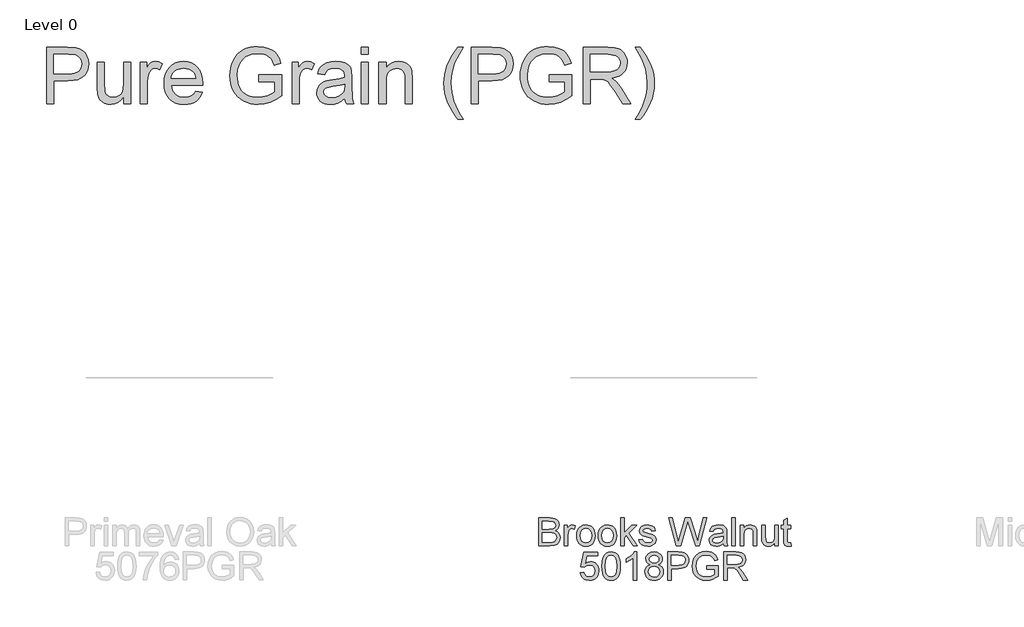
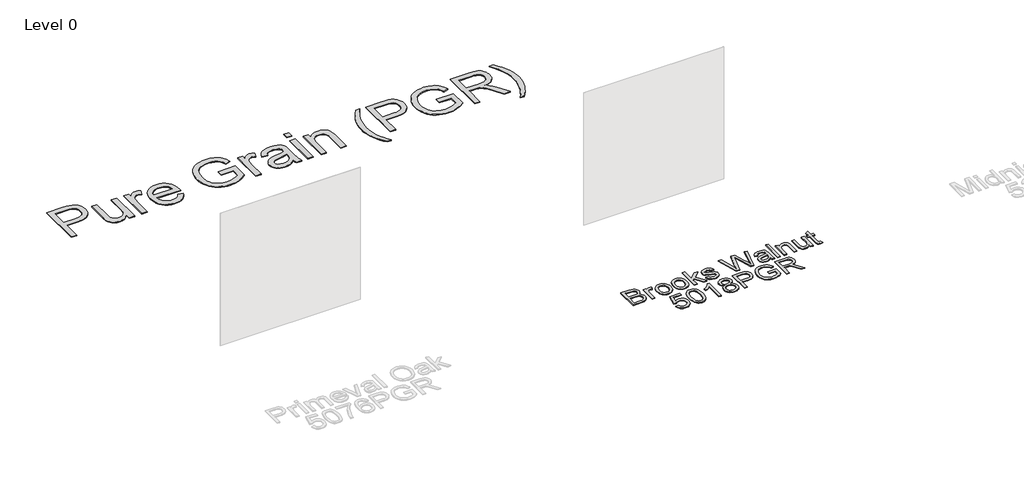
# One storey, part 19 of 43: 2 proxies.
"""IFC4 building model written with IfcOpenShell, lengths in millimetres."""

from ifc_helpers import new_model, si_unit, origin, origin_with_axes, place, context, project, spatial, polyline, outline, extrude, element, save

model = new_model("IFC4")

# Units and contexts
model_context = context("Model", 3, world=origin())
ifc_project = project(units=[si_unit("LENGTHUNIT", "METRE", prefix="MILLI")], contexts=[model_context])

# Site, building, storey
site = spatial("IfcSite", under=ifc_project)
building = spatial("IfcBuilding", under=site)
storey = spatial("IfcBuildingStorey", under=building, Name="Level 0", Elevation=0.0)

# Proxies
placement = place(None, origin())
element("IfcBuildingElementProxy", 1, Name="300mm Arial", ObjectType="300mm Arial", at=placement, inside=storey, context=model_context, shape_type="SweptSolid", body=[
    extrude(outline(polyline([(21409.6628701, -37006.860494), (21409.6628701, -36705.4915635), (21524.6627817, -36705.4915635), (21556.2914363, -36707.7080526), (21580.9855152, -36714.3575196), (21599.9130439, -36725.6055116), (21614.2420476, -36741.6175755), (21623.2643535, -36760.4531336), (21626.2717888, -36780.1716086), (21623.7426001, -36798.317388), (21616.1550339, -36815.3779155), (21603.4539081, -36830.3047274), (21585.5840402, -36842.0493601), (21606.9303929, -36853.1961846), (21622.7033335, -36870.1555446), (21632.4430093, -36891.8054), (21635.6895679, -36917.0237108), (21633.4730789, -36938.0389697), (21626.8236118, -36957.5275184), (21616.899995, -36974.1006023), (21604.8610567, -36986.3694669), (21590.1181857, -36995.253817), (21572.0827709, -37001.6733578), (21523.779865, -37006.860494), (21409.6628701, -37006.860494)]), holes=[polyline([(21447.3339864, -36827.9226915), (21516.1279195, -36827.9226915), (21556.3006333, -36824.68533), (21570.3629226, -36819.1027207), (21580.4704804, -36810.7426024), (21586.5681245, -36799.7337336), (21588.6006725, -36786.2048733), (21586.7060802, -36773.071486), (21581.0223034, -36761.630356), (21571.8068594, -36752.7000206), (21559.3172657, -36747.0990172), (21510.9039951, -36743.1626798), (21447.3339864, -36743.1626798), (21447.3339864, -36827.9226915)]), polyline([(21447.3339864, -36969.1893777), (21524.5892053, -36969.1893777), (21552.548237, -36967.7178497), (21576.2030493, -36959.5140812), (21591.8748223, -36942.7754504), (21596.4825443, -36930.9480443), (21598.0184516, -36917.3915928), (21596.2158298, -36901.6462434), (21590.8079645, -36888.1081859), (21581.3625943, -36877.5223815), (21567.4474578, -36870.6337912), (21547.7381799, -36866.8538037), (21520.9103854, -36865.5938078), (21447.3339864, -36865.5938078), (21447.3339864, -36969.1893777)])]), origin_with_axes(), (0.0, 0.0, 1.0), 10.0),
    extrude(outline(polyline([(21682.7784633, -37006.860494), (21682.7784633, -36785.5426857), (21715.74069, -36785.5426857), (21715.74069, -36818.2841833), (21727.9175841, -36799.3014723), (21739.1379849, -36788.1178596), (21750.395174, -36782.654812), (21762.6824326, -36780.8337961), (21781.4444144, -36783.7400639), (21800.5007017, -36792.4588672), (21787.9191375, -36826.2304343), (21774.6753857, -36820.4362929), (21761.4316338, -36818.5049125), (21750.1836418, -36820.3627165), (21740.1312663, -36825.9361288), (21732.0102713, -36834.8020848), (21726.5564207, -36846.5375205), (21721.9762899, -36867.5803706), (21720.4495796, -36890.5362071), (21720.4495796, -37006.860494), (21682.7784633, -37006.860494)])), origin_with_axes(), (0.0, 0.0, 1.0), 10.0),
    extrude(outline(polyline([(21814.6273703, -36896.2015898), (21816.6645169, -36867.5389839), (21822.7759565, -36842.8403064), (21832.9616893, -36822.1055575), (21847.2217151, -36805.334737), (21861.57831, -36794.6155754), (21877.4248269, -36786.9590314), (21894.7612659, -36782.3651049), (21913.587627, -36780.8337961), (21934.3706605, -36782.698498), (21953.1625327, -36788.2926036), (21969.9632435, -36797.6161129), (21984.7727931, -36810.669026), (21996.8600159, -36827.0098843), (22005.4937465, -36846.1972296), (22010.6739848, -36868.2310619), (22012.400731, -36893.1113811), (22009.3473104, -36931.1687735), (22000.1870487, -36960.1394806), (21985.1866604, -36981.8353213), (21964.6128598, -36998.0681143), (21940.1762983, -37008.1940662), (21913.587627, -37011.5693835), (21892.5010909, -37009.7115794), (21873.5344748, -37004.1381672), (21856.6877787, -36994.8491468), (21841.9610026, -36981.8445183), (21830.0025385, -36965.3450108), (21821.4607784, -36945.5713536), (21816.3357224, -36922.5235466), (21814.6273703, -36896.2015898)]), holes=[polyline([(21852.2984867, -36896.1280134), (21856.6578883, -36930.2214773), (21869.7360932, -36954.5108861), (21889.41778, -36969.0514219), (21913.587627, -36973.8982672), (21937.6471095, -36969.0238308), (21957.2920081, -36954.4005215), (21970.370213, -36929.789216), (21974.7296146, -36894.950791), (21970.3426219, -36861.8506085), (21957.1816435, -36837.8922936), (21937.5091538, -36823.3517577), (21913.587627, -36818.5049125), (21889.41778, -36823.3333636), (21869.7360932, -36837.8187172), (21856.6578883, -36862.0529436), (21852.2984867, -36896.1280134)])]), origin_with_axes(), (0.0, 0.0, 1.0), 10.0),
    extrude(outline(polyline([(22045.3629577, -36896.2015898), (22047.4001043, -36867.5389839), (22053.5115439, -36842.8403064), (22063.6972767, -36822.1055575), (22077.9573025, -36805.334737), (22092.3138974, -36794.6155754), (22108.1604143, -36786.9590314), (22125.4968533, -36782.3651049), (22144.3232144, -36780.8337961), (22165.1062479, -36782.698498), (22183.8981201, -36788.2926036), (22200.6988309, -36797.6161129), (22215.5083805, -36810.669026), (22227.5956033, -36827.0098843), (22236.2293339, -36846.1972296), (22241.4095722, -36868.2310619), (22243.1363183, -36893.1113811), (22240.0828978, -36931.1687735), (22230.9226361, -36960.1394806), (22215.9222477, -36981.8353213), (22195.3484472, -36998.0681143), (22170.9118856, -37008.1940662), (22144.3232144, -37011.5693835), (22123.2366783, -37009.7115794), (22104.2700622, -37004.1381672), (22087.4233661, -36994.8491468), (22072.69659, -36981.8445183), (22060.7381259, -36965.3450108), (22052.1963658, -36945.5713536), (22047.0713097, -36922.5235466), (22045.3629577, -36896.2015898)]), holes=[polyline([(22083.034074, -36896.1280134), (22087.3934757, -36930.2214773), (22100.4716806, -36954.5108861), (22120.1533673, -36969.0514219), (22144.3232144, -36973.8982672), (22168.3826969, -36969.0238308), (22188.0275955, -36954.4005215), (22201.1058004, -36929.789216), (22205.465202, -36894.950791), (22201.0782092, -36861.8506085), (22187.9172309, -36837.8922936), (22168.2447412, -36823.3517577), (22144.3232144, -36818.5049125), (22120.1533673, -36823.3333636), (22100.4716806, -36837.8187172), (22087.3934757, -36862.0529436), (22083.034074, -36896.1280134)])]), origin_with_axes(), (0.0, 0.0, 1.0), 10.0),
    extrude(outline(polyline([(22285.5163242, -37006.860494), (22285.5163242, -36705.4915635), (22323.1874405, -36705.4915635), (22323.1874405, -36867.4332178), (22407.6531466, -36785.5426857), (22459.7452371, -36785.5426857), (22374.2494614, -36868.4632874), (22464.4541266, -37006.860494), (22420.45544, -37006.860494), (22347.246923, -36894.6564855), (22323.1874405, -36917.9802039), (22323.1874405, -37006.860494), (22285.5163242, -37006.860494)])), origin_with_axes(), (0.0, 0.0, 1.0), 10.0),
    extrude(outline(polyline([(22483.2896848, -36940.9360404), (22520.9608011, -36936.2271509), (22526.9020953, -36952.3403823), (22538.3984077, -36964.1861825), (22555.5233145, -36971.470246), (22578.3503923, -36973.8982672), (22600.9015586, -36971.6725811), (22616.7572726, -36964.9955229), (22626.1382635, -36955.3202265), (22629.2652605, -36944.0998256), (22626.1198694, -36934.4981055), (22616.6836962, -36927.1772538), (22577.9089339, -36916.4350996), (22521.1815303, -36898.0042116), (22506.8249354, -36888.7427824), (22496.423072, -36876.4831149), (22490.1046987, -36862.0069584), (22487.9985743, -36846.0960621), (22489.6908315, -36831.5003439), (22494.767603, -36818.0266659), (22502.7690364, -36806.2084568), (22513.2352792, -36796.5791455), (22537.1843971, -36785.4323211), (22569.5948008, -36780.8337961), (22594.1141358, -36782.6824032), (22615.4328974, -36788.2282242), (22632.5761984, -36796.9286334), (22644.5691515, -36808.2410048), (22652.5154026, -36823.0022698), (22657.5185977, -36842.0493601), (22619.8474814, -36846.7582497), (22615.0926066, -36834.9032524), (22605.6840246, -36825.972917), (22591.5297648, -36820.3719136), (22572.5378568, -36818.5049125), (22550.9063955, -36820.2891401), (22536.4854213, -36825.6418232), (22528.3736233, -36833.3673451), (22525.6696906, -36842.2700893), (22530.157851, -36853.2329728), (22544.2109432, -36861.5471059), (22576.6581352, -36869.5669334), (22631.950799, -36887.2988455), (22646.5557142, -36895.7785255), (22657.6289623, -36907.3852025), (22664.6095232, -36922.1556646), (22666.9363768, -36940.1267001), (22664.204853, -36958.7047408), (22656.0102815, -36976.1791356), (22642.6653621, -36991.1795239), (22624.4827945, -37002.3355454), (22602.5202394, -37009.260924), (22577.8353575, -37011.5693835), (22539.8515415, -37007.1180114), (22512.1316332, -36993.763895), (22493.6271688, -36971.654187), (22483.2896848, -36940.9360404)])), origin_with_axes(), (0.0, 0.0, 1.0), 10.0),
    extrude(outline(polyline([(22885.6790111, -37006.860494), (22803.4941734, -36705.4915635), (22842.3425121, -36705.4915635), (22890.0200186, -36903.5592297), (22904.7352985, -36964.7012173), (22920.4806478, -36910.622564), (22980.2246839, -36705.4915635), (23036.2163235, -36705.4915635), (23079.626399, -36854.189466), (23098.2228338, -36909.3717653), (23111.9264381, -36964.7012173), (23126.2002596, -36905.3250633), (23174.3192245, -36705.4915635), (23213.1675632, -36705.4915635), (23130.9091491, -37006.860494), (23090.6628588, -37006.860494), (23018.410835, -36774.359073), (23008.3308683, -36741.9118811), (22997.0001028, -36780.9809489), (22931.1492257, -37006.860494), (22885.6790111, -37006.860494)])), origin_with_axes(), (0.0, 0.0, 1.0), 10.0),
    extrude(outline(polyline([(23387.3964761, -36978.6071568), (23369.3978495, -36994.0398064), (23350.865794, -37004.1381672), (23331.3772453, -37009.7115794), (23310.5091391, -37011.5693835), (23279.0276374, -37007.0996173), (23255.8050865, -36993.6903186), (23241.4852798, -36973.3280501), (23236.7120109, -36947.9993748), (23238.5146327, -36932.3827841), (23243.922498, -36918.2009331), (23252.2642222, -36906.0608273), (23262.8684208, -36896.5694718), (23289.2455598, -36884.2086368), (23321.8399046, -36878.5432541), (23360.3571495, -36872.5835657), (23387.1757469, -36865.5938078), (23387.3964761, -36857.2060983), (23384.8029081, -36840.3938912), (23377.0222039, -36829.3942195), (23359.6213855, -36821.2272392), (23335.377962, -36818.5049125), (23312.9371603, -36820.3167313), (23297.2653873, -36825.7521878), (23286.5784153, -36835.8045633), (23279.0920167, -36851.4671392), (23241.4209004, -36846.7582497), (23247.9600029, -36826.156858), (23257.7180728, -36809.9700502), (23271.6056181, -36797.590821), (23290.5331468, -36788.4121652), (23313.6821213, -36782.7283884), (23340.2340043, -36780.8337961), (23365.7006355, -36782.5076592), (23385.8881599, -36787.5292485), (23401.1092775, -36795.0800264), (23411.6766878, -36804.3414556), (23418.6848398, -36815.7917827), (23423.2281825, -36829.9092543), (23425.0675924, -36862.8714811), (23425.0675924, -36909.7396473), (23426.9805788, -36975.1858542), (23434.4853715, -37006.860494), (23396.8142552, -37006.860494), (23387.3964761, -36978.6071568)]), holes=[polyline([(23387.3964761, -36903.2649241), (23326.6223705, -36914.8164188), (23294.2119667, -36920.9232599), (23279.5334751, -36930.8560738), (23274.3831272, -36945.3506244), (23277.1882274, -36956.5526311), (23285.6035281, -36965.7312869), (23299.4450881, -36971.8565221), (23318.5289666, -36973.8982672), (23338.7624764, -36971.64499), (23356.6415413, -36964.8851583), (23371.1360919, -36954.9247533), (23381.2160586, -36943.069756), (23385.6858248, -36930.8560738), (23387.1757469, -36913.933502), (23387.3964761, -36903.2649241)])]), origin_with_axes(), (0.0, 0.0, 1.0), 10.0),
    extrude(outline(polyline([(23476.8653774, -37006.860494), (23476.8653774, -36705.4915635), (23514.5364937, -36705.4915635), (23514.5364937, -37006.860494), (23476.8653774, -37006.860494)])), origin_with_axes(), (0.0, 0.0, 1.0), 10.0),
    extrude(outline(polyline([(23571.0431681, -37006.860494), (23571.0431681, -36785.5426857), (23608.7142844, -36785.5426857), (23608.7142844, -36816.4447733), (23621.8016864, -36800.8649708), (23637.5194446, -36789.7365404), (23655.8675592, -36783.0594822), (23676.8460299, -36780.8337961), (23695.4148736, -36782.6272209), (23712.4202189, -36788.0074951), (23726.6020698, -36796.303234), (23736.7004305, -36806.8430532), (23747.9944078, -36834.5445674), (23749.9809706, -36870.964885), (23749.9809706, -37006.860494), (23712.3098543, -37006.860494), (23712.3098543, -36876.0416565), (23707.9688467, -36842.7115477), (23701.9631732, -36832.7879309), (23692.6281675, -36825.0900002), (23680.6628056, -36820.1511844), (23666.7660633, -36818.5049125), (23644.7023406, -36822.2021265), (23625.8943736, -36833.2937687), (23618.3780846, -36842.3482643), (23613.0093067, -36854.7228949), (23608.7142844, -36889.4325611), (23608.7142844, -37006.860494), (23571.0431681, -37006.860494)])), origin_with_axes(), (0.0, 0.0, 1.0), 10.0),
    extrude(outline(polyline([(23943.0454416, -37006.860494), (23943.0454416, -36968.8214957), (23929.4154137, -36987.5236966), (23913.5413056, -37000.8824116), (23895.4231174, -37008.8976405), (23875.0608489, -37011.5693835), (23856.7127344, -37009.6931853), (23839.6338128, -37004.0645908), (23825.3048091, -36995.6033049), (23815.2064483, -36985.2290327), (23803.9860475, -36957.4907302), (23801.7787555, -36922.4683643), (23801.7787555, -36785.5426857), (23839.4498718, -36785.5426857), (23839.4498718, -36904.7364521), (23841.7307402, -36943.1433324), (23847.2213789, -36955.9548229), (23856.629961, -36965.6944987), (23869.3310869, -36971.8473251), (23884.6993572, -36973.8982672), (23900.9505443, -36971.8013398), (23916.1532678, -36965.5105577), (23928.6888468, -36955.605335), (23936.9386005, -36942.6650858), (23941.5187314, -36924.9423707), (23943.0454416, -36900.6897502), (23943.0454416, -36785.5426857), (23980.7165579, -36785.5426857), (23980.7165579, -37006.860494), (23943.0454416, -37006.860494)])), origin_with_axes(), (0.0, 0.0, 1.0), 10.0),
    extrude(outline(polyline([(24112.565465, -36975.4433716), (24117.2743546, -37007.96414), (24089.0945937, -37011.5693835), (24071.0131937, -37010.005885), (24057.5303185, -37005.3153896), (24048.0021749, -36998.0865084), (24041.7849691, -36988.9078526), (24038.3636666, -36973.1441091), (24037.2232324, -36946.1599648), (24037.2232324, -36823.213802), (24008.9698952, -36823.213802), (24008.9698952, -36785.5426857), (24037.2232324, -36785.5426857), (24037.2232324, -36731.758338), (24074.8943487, -36709.6118419), (24074.8943487, -36785.5426857), (24112.565465, -36785.5426857), (24112.565465, -36823.213802), (24074.8943487, -36823.213802), (24074.8943487, -36945.0563188), (24076.8809115, -36964.4804881), (24083.3188464, -36971.3598814), (24096.157928, -36973.8982672), (24112.565465, -36975.4433716)])), origin_with_axes(), (0.0, 0.0, 1.0), 10.0),
    extrude(outline(polyline([(21854.6529314, -37292.7338254), (21892.3240477, -37288.0249358), (21899.2402292, -37310.6404815), (21911.3067587, -37326.8364863), (21928.4684538, -37336.5761621), (21950.6701322, -37339.8227207), (21977.6726706, -37335.3069693), (21997.9061803, -37321.7597148), (22010.5429269, -37300.7444558), (22014.7551757, -37273.8246908), (22010.8096413, -37248.4776213), (21998.9730381, -37229.0902402), (21979.1533956, -37216.7845875), (21951.2587434, -37212.6827032), (21932.9842052, -37214.3197781), (21918.186152, -37219.2310027), (21897.0329373, -37236.2271509), (21859.361821, -37231.5182614), (21892.3240477, -37076.1249066), (22038.2996234, -37076.1249066), (22038.2996234, -37113.7960229), (21922.7846769, -37113.7960229), (21906.6714455, -37196.790201), (21933.5820135, -37180.4562404), (21961.7801684, -37175.0115869), (21980.1259837, -37176.6992456), (21996.9772783, -37181.7622215), (22012.3340523, -37190.2005148), (22026.1963058, -37202.0141254), (22037.6719248, -37216.4810848), (22045.8687955, -37232.8794248), (22050.7869179, -37251.2091452), (22052.426292, -37271.470246), (22046.521786, -37309.1413624), (22039.1411535, -37325.9351754), (22028.8082679, -37341.3678251), (22013.154889, -37357.1729553), (21994.889548, -37368.4623341), (21974.0122448, -37375.2359613), (21950.5229794, -37377.4938371), (21913.5232477, -37371.6904986), (21897.8445769, -37364.4363255), (21884.0467028, -37354.2804832), (21872.5664853, -37341.7288093), (21863.8407843, -37327.2871418), (21854.6529314, -37292.7338254)])), origin_with_axes(), (0.0, 0.0, 1.0), 10.0),
    extrude(outline(polyline([(22085.3885188, -37224.5285035), (22088.1568308, -37176.2899768), (22096.4617669, -37137.8187172), (22110.2205535, -37108.5261133), (22129.3504172, -37087.8235541), (22153.9893138, -37075.5179013), (22184.2751991, -37071.4160171), (22207.488553, -37073.8440382), (22228.2738857, -37081.1281017), (22245.65631, -37092.983099), (22258.6609385, -37109.1239216), (22268.4833878, -37129.4126136), (22276.3192743, -37153.7112194), (22281.4512281, -37184.5673217), (22283.1618794, -37224.5285035), (22280.4211585, -37272.4911186), (22272.1989959, -37310.8704077), (22258.5229828, -37340.1906027), (22239.4207102, -37360.9759355), (22214.7266313, -37373.3643617), (22184.2751991, -37377.4938371), (22163.5266546, -37375.7004123), (22145.1325548, -37370.3201381), (22129.0928998, -37361.3530145), (22115.4076896, -37348.7990414), (22102.2743024, -37326.1053209), (22092.8933115, -37297.828991), (22087.264717, -37263.9700519), (22085.3885188, -37224.5285035)]), holes=[polyline([(22123.0596351, -37224.4549271), (22127.474219, -37283.7115194), (22132.992449, -37303.9795181), (22140.7179709, -37318.0073184), (22160.4364458, -37334.3688702), (22184.2751991, -37339.8227207), (22208.1139524, -37334.3504761), (22227.8324273, -37317.933742), (22235.5579492, -37303.8829491), (22241.0761792, -37283.6195489), (22245.4907631, -37224.4549271), (22241.223332, -37166.5319069), (22235.889043, -37146.3305869), (22228.4210385, -37131.9693935), (22208.7393518, -37114.8076984), (22183.8337407, -37109.0871334), (22160.2525048, -37114.1271167), (22141.3065821, -37129.2470667), (22133.3235428, -37144.8820515), (22127.6213718, -37165.9616898), (22123.0596351, -37224.4549271)])]), origin_with_axes(), (0.0, 0.0, 1.0), 10.0),
    extrude(outline(polyline([(22457.3907923, -37372.7849475), (22419.719676, -37372.7849475), (22419.719676, -37137.9290818), (22384.0351225, -37163.3497277), (22344.3774434, -37182.3692268), (22344.3774434, -37146.7582497), (22373.9643529, -37130.6634124), (22399.5965309, -37111.5151545), (22419.8024495, -37091.1528861), (22433.1105806, -37071.4160171), (22457.3907923, -37071.4160171), (22457.3907923, -37372.7849475)])), origin_with_axes(), (0.0, 0.0, 1.0), 10.0),
    extrude(outline(polyline([(22601.7476872, -37206.7965913), (22581.5785568, -37196.8637774), (22567.4242971, -37183.3992964), (22559.0641787, -37166.6790597), (22556.2774726, -37146.9789789), (22557.7949859, -37131.6153071), (22562.3475255, -37117.5300252), (22569.9350917, -37104.7231332), (22580.5576843, -37093.1946312), (22593.7048671, -37083.6664875), (22608.8662038, -37076.8606706), (22645.2313391, -37071.4160171), (22681.8172035, -37076.9894293), (22697.1440871, -37083.9561946), (22710.493605, -37093.709666), (22721.3093357, -37105.4634957), (22729.0348576, -37118.4313361), (22733.6701707, -37132.613187), (22735.2152751, -37148.0090485), (22732.4653572, -37167.0745329), (22724.2156034, -37183.509661), (22710.3740434, -37196.8913686), (22690.8487065, -37206.7965913), (22714.0344692, -37218.7435591), (22730.9110557, -37236.3375155), (22741.2025545, -37258.732332), (22744.6330542, -37285.0818799), (22742.9315999, -37303.8714528), (22737.8272372, -37321.0975272), (22729.3199661, -37336.7601031), (22717.4097865, -37350.8591806), (22702.7220979, -37362.5118428), (22685.8822995, -37370.8351729), (22666.8903915, -37375.829171), (22645.7463739, -37377.4938371), (22624.6023562, -37375.8222732), (22605.6104482, -37370.8075818), (22588.7706498, -37362.4497627), (22574.0829612, -37350.748816), (22562.1727816, -37336.5508703), (22553.6655105, -37320.7020541), (22548.5611478, -37303.2023674), (22546.8596935, -37284.0518103), (22550.4281489, -37256.6813898), (22561.133515, -37234.1670117), (22578.4239687, -37217.2812282), (22601.7476872, -37206.7965913)]), holes=[polyline([(22593.9485889, -37148.0826249), (22597.287118, -37164.52695), (22607.3027054, -37177.6603373), (22623.7010453, -37186.268776), (22646.1878322, -37189.1382555), (22668.1503874, -37186.2871701), (22684.3004069, -37177.7339137), (22694.2332208, -37165.0419848), (22697.5441588, -37149.774882), (22694.1228562, -37133.9283651), (22683.8589486, -37120.822569), (22667.4881998, -37112.0209923), (22645.7463739, -37109.0871334), (22623.8665922, -37111.9566129), (22607.5234346, -37120.5650516), (22597.3423003, -37133.1834041), (22593.9485889, -37148.0826249)]), polyline([(22584.5308099, -37282.7274351), (22590.821592, -37311.0911369), (22599.5311982, -37323.2588339), (22613.0784527, -37332.317928), (22629.3020487, -37337.9465226), (22646.0406794, -37339.8227207), (22671.6820545, -37335.8771864), (22690.9222829, -37324.0405832), (22702.9520241, -37306.1155329), (22706.9619378, -37283.9046575), (22702.8232654, -37261.316703), (22690.4072481, -37242.9961796), (22670.7255613, -37230.8560738), (22644.7898807, -37226.8093718), (22619.5071905, -37230.8008915), (22600.4601002, -37242.7754504), (22588.5131325, -37260.7464859), (22584.5308099, -37282.7274351)])]), origin_with_axes(), (0.0, 0.0, 1.0), 10.0),
    extrude(outline(polyline([(22791.7219495, -37372.7849475), (22791.7219495, -37071.4160171), (22903.4109233, -37071.4160171), (22948.4396795, -37074.2854966), (22968.5168394, -37079.6473767), (22985.043938, -37088.375377), (22998.3520692, -37100.8649708), (23008.7723267, -37117.5116311), (23015.5045672, -37137.1473326), (23017.7486474, -37158.6040499), (23016.2334334, -37177.1039158), (23011.6877915, -37194.1230566), (23004.1117217, -37209.6614723), (22993.5052239, -37223.7191631), (22978.9439947, -37235.3718253), (22959.5037305, -37243.6951554), (22935.1844313, -37248.6891535), (22905.9860972, -37250.3538195), (22829.3930658, -37250.3538195), (22829.3930658, -37372.7849475), (22791.7219495, -37372.7849475)]), holes=[polyline([(22829.3930658, -37212.6827032), (22908.1933892, -37212.6827032), (22941.5970744, -37209.2246125), (22963.6699941, -37198.8503402), (22975.9756468, -37182.2036799), (22980.0775311, -37159.9284251), (22977.6587069, -37143.0058533), (22970.4022346, -37128.7320319), (22959.2094249, -37117.9898777), (22944.9815887, -37111.6623073), (22907.3104724, -37109.0871334), (22829.3930658, -37109.0871334), (22829.3930658, -37212.6827032)])]), origin_with_axes(), (0.0, 0.0, 1.0), 10.0),
    extrude(outline(polyline([(23210.8131184, -37255.0627091), (23210.8131184, -37217.3915928), (23333.2442464, -37217.3915928), (23333.2442464, -37330.0370597), (23303.4917901, -37350.7304219), (23272.8012346, -37365.5744604), (23241.2461565, -37374.5139929), (23208.9001321, -37377.4938371), (23166.6396879, -37372.7573564), (23128.4443397, -37358.5479143), (23096.7145176, -37335.3621516), (23073.8506516, -37303.6967088), (23060.0274857, -37265.7128928), (23055.4197637, -37223.5720103), (23060.0090916, -37181.1276251), (23073.7770752, -37141.6446899), (23096.1534976, -37108.5261133), (23126.5681415, -37085.1748037), (23163.6138585, -37071.3240466), (23205.8834997, -37066.7071275), (23236.914346, -37069.383469), (23264.8181953, -37077.4124936), (23288.3166578, -37090.214787), (23306.1313434, -37107.2109352), (23319.3107159, -37129.2194756), (23328.9032389, -37157.0589455), (23294.1751785, -37166.8446066), (23286.4220655, -37146.9881759), (23276.9950894, -37132.0061817), (23264.5238897, -37120.7122044), (23247.6381062, -37111.9198247), (23227.505764, -37106.2636391), (23205.2948885, -37104.3782438), (23179.2948285, -37106.4107919), (23157.0655589, -37112.5084359), (23138.6898533, -37121.9078209), (23124.250485, -37133.8455916), (23104.8631038, -37162.8714811), (23096.0339359, -37191.3087593), (23093.09088, -37222.0269059), (23096.6317442, -37258.0517503), (23107.2543368, -37287.693842), (23124.6367611, -37310.741649), (23148.4571203, -37326.9836391), (23176.3333784, -37336.6129503), (23205.8834997, -37339.8227207), (23231.9755302, -37337.4038966), (23257.4237672, -37330.1474243), (23279.5242781, -37320.1502311), (23295.5731301, -37309.5092443), (23295.5731301, -37255.0627091), (23210.8131184, -37255.0627091)])), origin_with_axes(), (0.0, 0.0, 1.0), 10.0),
    extrude(outline(polyline([(23394.4598104, -37372.7849475), (23394.4598104, -37071.4160171), (23524.3221547, -37071.4160171), (23559.224959, -37073.4485651), (23584.6180137, -37079.5462092), (23603.1776604, -37090.8033982), (23617.5802405, -37108.3145812), (23626.8232756, -37130.0288159), (23629.9042873, -37153.8951604), (23624.7999247, -37183.5832374), (23609.4868366, -37208.1945429), (23597.8870575, -37218.2239258), (23583.5051707, -37226.2391547), (23546.3950744, -37236.2271509), (23567.8058066, -37252.3403823), (23598.3400122, -37291.1151446), (23648.5926927, -37372.7849475), (23604.8147353, -37372.7849475), (23565.5985146, -37310.3185847), (23537.271601, -37268.9686485), (23517.369185, -37249.4341145), (23499.4533319, -37242.2604156), (23477.6011413, -37240.9360404), (23432.1309267, -37240.9360404), (23432.1309267, -37372.7849475), (23394.4598104, -37372.7849475)]), holes=[polyline([(23432.1309267, -37203.2649241), (23516.44948, -37203.2649241), (23540.6653124, -37201.9313519), (23559.4548853, -37197.9306352), (23573.599948, -37190.9960596), (23583.8822498, -37180.8609106), (23590.1454407, -37168.6012431), (23592.233171, -37155.293112), (23588.2508484, -37136.9174063), (23576.3038807, -37122.110156), (23555.7484742, -37112.342889), (23525.9408355, -37109.0871334), (23432.1309267, -37109.0871334), (23432.1309267, -37203.2649241)])]), origin_with_axes(), (0.0, 0.0, 1.0), 10.0),
])
element("IfcBuildingElementProxy", 2, Name="600mm Arial", ObjectType="600mm Arial", at=placement, inside=storey, context=model_context, shape_type="SweptSolid", body=[
    extrude(outline(polyline([(16122.5368148, -32257.4569879), (16122.5368148, -31654.719127), (16345.9147622, -31654.719127), (16397.9332763, -31656.1538668), (16435.9722746, -31660.4580861), (16476.1265944, -31671.1818463), (16509.1807917, -31688.637847), (16535.797054, -31713.6170344), (16556.6375691, -31746.910355), (16570.1020501, -31786.181758), (16574.5902104, -31829.0951927), (16571.5597825, -31866.0949244), (16562.4684987, -31900.133206), (16547.316359, -31931.2100375), (16526.1033635, -31959.325419), (16496.980905, -31982.6307434), (16458.1003767, -31999.2774037), (16409.4617784, -32009.2653999), (16351.0651102, -32012.5947319), (16197.8790474, -32012.5947319), (16197.8790474, -32257.4569879), (16122.5368148, -32257.4569879)]), holes=[polyline([(16197.8790474, -31937.2524993), (16355.4796941, -31937.2524993), (16391.7160706, -31935.5234539), (16422.2870644, -31930.3363178), (16447.1926755, -31921.6910909), (16466.4329039, -31909.5877733), (16480.7894987, -31894.3482616), (16491.0442093, -31876.2944527), (16497.1970357, -31855.4263465), (16499.2479778, -31831.7439431), (16494.4103296, -31797.8987995), (16479.8973849, -31769.3511567), (16457.5117655, -31747.8668482), (16429.0560931, -31735.2117075), (16399.9934155, -31731.3489466), (16353.7138605, -31730.0613596), (16197.8790474, -31730.0613596), (16197.8790474, -31937.2524993)])]), origin_with_axes(), (0.0, 0.0, 1.0), 10.0),
    extrude(outline(polyline([(16951.3013735, -32257.4569879), (16951.3013735, -32181.3789913), (16924.0413177, -32218.7833932), (16892.2931015, -32245.5008231), (16856.0567249, -32261.531281), (16815.3321881, -32266.874767), (16778.6359591, -32263.1223706), (16744.4781158, -32251.8651816), (16715.8201084, -32234.9426098), (16695.6233868, -32214.1940653), (16682.0301471, -32188.9941486), (16673.1825851, -32158.7174604), (16668.7680012, -32088.6727285), (16668.7680012, -31814.8213713), (16744.1102338, -31814.8213713), (16744.1102338, -32053.2089042), (16745.250668, -32100.8864108), (16748.6719705, -32130.0226648), (16759.6532481, -32155.6456457), (16778.4704122, -32175.1249974), (16803.8726639, -32187.4306501), (16834.6092046, -32191.5325344), (16867.1115789, -32187.3386796), (16897.5170258, -32174.7571154), (16922.5881838, -32154.9466699), (16939.0876913, -32129.0661716), (16948.2479529, -32093.6207413), (16951.3013735, -32045.1155003), (16951.3013735, -31814.8213713), (17026.6436061, -31814.8213713), (17026.6436061, -32257.4569879), (16951.3013735, -32257.4569879)])), origin_with_axes(), (0.0, 0.0, 1.0), 10.0),
    extrude(outline(polyline([(17130.2391759, -32257.4569879), (17130.2391759, -31814.8213713), (17196.1636295, -31814.8213713), (17196.1636295, -31880.3043664), (17220.5174176, -31842.3389445), (17242.9582193, -31819.9717192), (17265.4725974, -31809.045624), (17290.0471147, -31805.4035922), (17327.5710782, -31811.2161277), (17365.6836529, -31828.6537343), (17340.5205244, -31896.1968686), (17314.0330207, -31884.6085858), (17287.5455171, -31880.7458248), (17265.0495331, -31884.461433), (17244.944782, -31895.6082574), (17228.702792, -31913.3401696), (17217.7950908, -31936.8110409), (17208.6348291, -31978.8967412), (17205.5814086, -32024.8084141), (17205.5814086, -32257.4569879), (17130.2391759, -32257.4569879)])), origin_with_axes(), (0.0, 0.0, 1.0), 10.0),
    extrude(outline(polyline([(17722.676341, -32125.6080808), (17796.5470456, -32135.0258599), (17785.2208787, -32164.6127694), (17769.9307833, -32190.6864058), (17750.6767593, -32213.2467691), (17727.4588069, -32232.2938594), (17700.5160493, -32247.4230065), (17670.0876098, -32258.2295401), (17636.1734883, -32264.7134603), (17598.773685, -32266.874767), (17552.0250805, -32263.1453632), (17510.3716416, -32251.9571521), (17473.8133683, -32233.3101334), (17442.3502607, -32207.2043074), (17417.0491764, -32174.3662408), (17398.9769734, -32135.5225006), (17388.1336516, -32090.6730869), (17384.519211, -32039.8179996), (17388.1704398, -31987.2384654), (17399.1241262, -31940.894531), (17417.3802702, -31900.7861965), (17442.9388718, -31866.9134618), (17474.319206, -31840.0028939), (17510.0405478, -31820.7810596), (17550.102897, -31809.2479591), (17594.5062539, -31805.4035922), (17637.4794694, -31809.238762), (17676.3416037, -31820.7442714), (17711.0926567, -31839.9201204), (17741.7326283, -31866.766309), (17766.7440055, -31900.5654673), (17784.6092749, -31940.6002255), (17795.3284365, -31986.8705834), (17798.9014904, -32039.3765412), (17798.460032, -32059.6836273), (17459.8614436, -32059.6836273), (17464.2254438, -32089.7487833), (17472.9028604, -32116.0799372), (17485.8936933, -32138.6770887), (17503.1979427, -32157.540238), (17523.8591152, -32172.4118677), (17546.9207178, -32183.0344603), (17572.3827504, -32189.4080158), (17600.245213, -32191.5325344), (17640.3443505, -32187.596197), (17674.1159176, -32175.787185), (17701.5599145, -32155.3697342), (17722.676341, -32125.6080808)]), holes=[polyline([(17459.8614436, -31984.3413947), (17723.5592578, -31984.3413947), (17713.3689265, -31944.5365628), (17704.604138, -31928.8831839), (17693.3929342, -31916.0624964), (17672.8467247, -31900.6114526), (17649.4678239, -31889.5749927), (17623.2562318, -31882.9531168), (17594.2119483, -31880.7458248), (17567.7198461, -31882.5070599), (17543.4258388, -31887.790765), (17521.3299265, -31896.5969403), (17501.4321091, -31908.9255857), (17484.734865, -31924.206484), (17472.2406728, -31941.8694183), (17463.9495323, -31961.9143885), (17459.8614436, -31984.3413947)])]), origin_with_axes(), (0.0, 0.0, 1.0), 10.0),
    extrude(outline(polyline([(18401.6393513, -32022.012511), (18401.6393513, -31946.6702784), (18646.5016073, -31946.6702784), (18646.5016073, -32171.9612122), (18586.9966945, -32213.3479367), (18525.6155837, -32243.0360137), (18462.5054274, -32260.9150787), (18397.8133785, -32266.874767), (18354.5366603, -32264.5065266), (18313.2924901, -32257.4018056), (18274.080868, -32245.5606039), (18236.9017938, -32228.9829215), (18202.9554827, -32207.9170787), (18173.4421497, -32182.611396), (18148.3617946, -32153.0658732), (18127.7144177, -32119.2805105), (18111.5873907, -32082.3359611), (18100.0680857, -32043.3128785), (18093.1565027, -32002.2112626), (18090.8526418, -31959.0311134), (18093.1473057, -31915.8463657), (18100.0312975, -31874.142343), (18111.5046173, -31833.9190454), (18127.5672649, -31795.1764728), (18147.9341318, -31759.6160794), (18172.3201096, -31728.9393195), (18200.7251981, -31703.1461931), (18233.1493975, -31682.2367002), (18268.8891333, -31666.0774836), (18307.2408313, -31654.535186), (18348.2044915, -31647.6098074), (18391.7801138, -31645.3013479), (18453.8418064, -31650.654031), (18509.6495051, -31666.71208), (18534.5689117, -31678.4659098), (18556.6464299, -31692.3166669), (18575.8820598, -31708.2643514), (18592.2758012, -31726.3089633), (18618.6345461, -31770.326044), (18637.8195922, -31826.004984), (18568.3634715, -31845.5763061), (18552.8572454, -31805.8634447), (18534.0032931, -31775.8994562), (18509.0608939, -31753.3115017), (18475.2893267, -31735.7267423), (18435.0246423, -31724.414371), (18390.6028914, -31720.6435805), (18338.6027714, -31724.7086766), (18294.1442323, -31736.9039647), (18257.392821, -31755.7027347), (18228.5140843, -31779.5782762), (18206.3491941, -31807.2981845), (18189.7393221, -31837.630055), (18172.0809863, -31894.5046115), (18166.1948744, -31955.9409047), (18167.9653065, -31993.5614372), (18173.2766028, -32027.9905934), (18182.1287633, -32059.2283733), (18194.521788, -32087.2747769), (18210.2947285, -32112.0240382), (18229.2866365, -32133.3703909), (18251.497512, -32151.3138352), (18276.9273549, -32165.8543711), (18304.3851473, -32177.0885675), (18332.6798713, -32185.1129935), (18361.8115268, -32189.9276492), (18391.7801138, -32191.5325344), (18443.9641748, -32186.6948861), (18494.8606489, -32172.1819414), (18539.0616706, -32152.187555), (18571.1593747, -32130.9055816), (18571.1593747, -32022.012511), (18401.6393513, -32022.012511)])), origin_with_axes(), (0.0, 0.0, 1.0), 10.0),
    extrude(outline(polyline([(18759.5149562, -32257.4569879), (18759.5149562, -31814.8213713), (18825.4394097, -31814.8213713), (18825.4394097, -31880.3043664), (18849.7931978, -31842.3389445), (18872.2339995, -31819.9717192), (18894.7483776, -31809.045624), (18919.3228949, -31805.4035922), (18956.8468584, -31811.2161277), (18994.9594331, -31828.6537343), (18969.7963046, -31896.1968686), (18943.308801, -31884.6085858), (18916.8212973, -31880.7458248), (18894.3253133, -31884.461433), (18874.2205623, -31895.6082574), (18857.9785722, -31913.3401696), (18847.070871, -31936.8110409), (18837.9106094, -31978.8967412), (18834.8571888, -32024.8084141), (18834.8571888, -32257.4569879), (18759.5149562, -32257.4569879)])), origin_with_axes(), (0.0, 0.0, 1.0), 10.0),
    extrude(outline(polyline([(19324.5817008, -32200.9503134), (19288.5844475, -32231.8156128), (19251.5203365, -32252.0123344), (19212.5432391, -32263.1591588), (19170.8070268, -32266.874767), (19137.2607874, -32264.6398839), (19107.8440233, -32257.9352345), (19082.5567347, -32246.7608189), (19061.3989214, -32231.116637), (19044.6924803, -32211.9959703), (19032.7593081, -32190.3921002), (19025.5994048, -32166.3050265), (19023.2127703, -32139.7347494), (19026.8180139, -32108.5015681), (19037.6337445, -32080.1378662), (19054.317193, -32055.8576545), (19075.52559, -32036.8749436), (19100.4495952, -32022.5275458), (19128.2798682, -32012.1532735), (19193.4685577, -32000.8225081), (19270.5030475, -31988.9031314), (19324.1402424, -31974.9236156), (19324.5817008, -31958.1481966), (19319.3945646, -31924.5237823), (19312.9106445, -31912.0709767), (19303.8331562, -31902.524439), (19288.1429892, -31892.9962953), (19269.0315195, -31886.1904784), (19220.5446725, -31880.7458248), (19175.6630691, -31884.3694625), (19144.3195231, -31895.2403754), (19122.9455792, -31915.3451265), (19107.972782, -31946.6702784), (19032.6305494, -31937.2524993), (19045.7087543, -31896.0497158), (19065.2248942, -31863.6761003), (19092.9999848, -31838.917642), (19130.8550421, -31820.5603304), (19177.1529912, -31809.1927768), (19230.2567572, -31805.4035922), (19281.1900194, -31808.7513184), (19321.5650684, -31818.7944968), (19352.0073035, -31833.8960528), (19373.1421241, -31852.4189112), (19387.1584282, -31875.3195654), (19396.2451134, -31903.5545085), (19399.9239334, -31969.4789621), (19399.9239334, -32063.2152944), (19403.7499061, -32194.1077083), (19409.4152889, -32226.4629298), (19418.7594915, -32257.4569879), (19343.4172589, -32257.4569879), (19331.3507295, -32231.2637898), (19324.5817008, -32200.9503134)]), holes=[polyline([(19324.5817008, -32050.2658482), (19273.9611382, -32062.8106243), (19203.0334896, -32073.3688375), (19138.212682, -32085.5825198), (19121.3452925, -32093.933441), (19108.8556988, -32105.4481475), (19101.1301769, -32119.2437223), (19098.5550029, -32134.4372487), (19104.1652034, -32156.8412622), (19120.9958046, -32175.1985738), (19148.6789248, -32187.4490442), (19186.8466818, -32191.5325344), (19227.3137013, -32187.0259799), (19263.0718312, -32173.5063166), (19292.0609324, -32153.5855066), (19312.2208657, -32129.875512), (19321.1603982, -32105.4481475), (19324.1402424, -32071.6030039), (19324.5817008, -32050.2658482)])]), origin_with_axes(), (0.0, 0.0, 1.0), 10.0),
    extrude(outline(polyline([(19503.5195032, -31730.0613596), (19503.5195032, -31654.719127), (19578.8617358, -31654.719127), (19578.8617358, -31730.0613596), (19503.5195032, -31730.0613596)])), origin_with_axes(), (0.0, 0.0, 1.0), 10.0),
    extrude(outline(polyline([(19503.5195032, -32257.4569879), (19503.5195032, -31814.8213713), (19578.8617358, -31814.8213713), (19578.8617358, -32257.4569879), (19503.5195032, -32257.4569879)])), origin_with_axes(), (0.0, 0.0, 1.0), 10.0),
    extrude(outline(polyline([(19691.8750848, -32257.4569879), (19691.8750848, -31814.8213713), (19767.2173174, -31814.8213713), (19767.2173174, -31876.6255465), (19793.3921213, -31845.4659415), (19824.8276378, -31823.2090808), (19861.5238668, -31809.8549644), (19903.4808084, -31805.4035922), (19940.6184958, -31808.9904417), (19974.6291863, -31819.75099), (20002.9928881, -31836.342468), (20023.1896096, -31857.4221063), (20036.8932139, -31882.9347227), (20045.7775641, -31912.8251348), (20049.7506897, -31985.6657699), (20049.7506897, -32257.4569879), (19974.4084571, -32257.4569879), (19974.4084571, -31995.8193129), (19972.2379533, -31956.8606096), (19965.726442, -31929.1590954), (19953.7150948, -31909.3118618), (19935.0450836, -31893.9160003), (19911.1143598, -31884.0383687), (19883.3208751, -31880.7458248), (19860.4432135, -31882.5944319), (19839.1934297, -31888.1402529), (19819.5715238, -31897.3832881), (19801.5774957, -31910.3235372), (19786.5449177, -31928.4325285), (19775.807362, -31953.1817897), (19769.3648285, -31984.5713209), (19767.2173174, -32022.6011222), (19767.2173174, -32257.4569879), (19691.8750848, -32257.4569879)])), origin_with_axes(), (0.0, 0.0, 1.0), 10.0),
    extrude(outline(polyline([(20539.4752016, -32426.9770113), (20509.0605577, -32387.6228348), (20481.092329, -32345.049691), (20455.5705156, -32299.2575796), (20432.4951175, -32250.2465008), (20413.3744508, -32199.1660858), (20399.7168317, -32147.1659657), (20391.5222602, -32094.2461407), (20388.7907364, -32040.4066107), (20390.8324815, -31993.0877891), (20396.9577167, -31946.780643), (20407.1664421, -31901.4851723), (20421.4586576, -31857.2013771), (20443.1820894, -31806.4152677), (20470.0926574, -31755.7395229), (20502.1903614, -31705.1741426), (20539.4752016, -31654.719127), (20595.9818761, -31654.719127), (20551.6520957, -31726.3457515), (20525.4956858, -31774.0600462), (20501.4362033, -31830.7138735), (20483.11568, -31889.7221455), (20468.8786468, -31965.1011663), (20464.132969, -32040.8480691), (20466.1931082, -32089.1463766), (20472.3735257, -32137.435487), (20482.6742216, -32185.7154003), (20497.0951958, -32233.9861166), (20515.6364484, -32282.2476358), (20538.2979793, -32330.499958), (20565.0797885, -32378.7430832), (20595.9818761, -32426.9770113), (20539.4752016, -32426.9770113)])), origin_with_axes(), (0.0, 0.0, 1.0), 10.0),
    extrude(outline(polyline([(20680.7418878, -32257.4569879), (20680.7418878, -31654.719127), (20904.1198353, -31654.719127), (20956.1383494, -31656.1538668), (20994.1773477, -31660.4580861), (21034.3316675, -31671.1818463), (21067.3858647, -31688.637847), (21094.0021271, -31713.6170344), (21114.8426421, -31746.910355), (21128.3071231, -31786.181758), (21132.7952835, -31829.0951927), (21129.7648555, -31866.0949244), (21120.6735717, -31900.133206), (21105.5214321, -31931.2100375), (21084.3084365, -31959.325419), (21055.1859781, -31982.6307434), (21016.3054497, -31999.2774037), (20967.6668514, -32009.2653999), (20909.2701832, -32012.5947319), (20756.0841204, -32012.5947319), (20756.0841204, -32257.4569879), (20680.7418878, -32257.4569879)]), holes=[polyline([(20756.0841204, -31937.2524993), (20913.6847671, -31937.2524993), (20949.9211437, -31935.5234539), (20980.4921375, -31930.3363178), (21005.3977485, -31921.6910909), (21024.6379769, -31909.5877733), (21038.9945718, -31894.3482616), (21049.2492824, -31876.2944527), (21055.4021087, -31855.4263465), (21057.4530509, -31831.7439431), (21052.6154026, -31797.8987995), (21038.1024579, -31769.3511567), (21015.7168385, -31747.8668482), (20987.2611662, -31735.2117075), (20958.1984886, -31731.3489466), (20911.9189336, -31730.0613596), (20756.0841204, -31730.0613596), (20756.0841204, -31937.2524993)])]), origin_with_axes(), (0.0, 0.0, 1.0), 10.0),
    extrude(outline(polyline([(21518.9242256, -32022.012511), (21518.9242256, -31946.6702784), (21763.7864816, -31946.6702784), (21763.7864816, -32171.9612122), (21704.2815689, -32213.3479367), (21642.900458, -32243.0360137), (21579.7903017, -32260.9150787), (21515.0982529, -32266.874767), (21471.8215347, -32264.5065266), (21430.5773645, -32257.4018056), (21391.3657423, -32245.5606039), (21354.1866682, -32228.9829215), (21320.2403571, -32207.9170787), (21290.727024, -32182.611396), (21265.646669, -32153.0658732), (21244.999292, -32119.2805105), (21228.872265, -32082.3359611), (21217.3529601, -32043.3128785), (21210.4413771, -32002.2112626), (21208.1375161, -31959.0311134), (21210.43218, -31915.8463657), (21217.3161719, -31874.142343), (21228.7894916, -31833.9190454), (21244.8521392, -31795.1764728), (21265.2190062, -31759.6160794), (21289.6049839, -31728.9393195), (21318.0100725, -31703.1461931), (21350.4342718, -31682.2367002), (21386.1740076, -31666.0774836), (21424.5257056, -31654.535186), (21465.4893658, -31647.6098074), (21509.0649881, -31645.3013479), (21571.1266807, -31650.654031), (21626.9343794, -31666.71208), (21651.853786, -31678.4659098), (21673.9313043, -31692.3166669), (21693.1669341, -31708.2643514), (21709.5606755, -31726.3089633), (21735.9194205, -31770.326044), (21755.1044665, -31826.004984), (21685.6483458, -31845.5763061), (21670.1421197, -31805.8634447), (21651.2881675, -31775.8994562), (21626.3457682, -31753.3115017), (21592.574201, -31735.7267423), (21552.3095167, -31724.414371), (21507.8877658, -31720.6435805), (21455.8876457, -31724.7086766), (21411.4291066, -31736.9039647), (21374.6776953, -31755.7027347), (21345.7989587, -31779.5782762), (21323.6340685, -31807.2981845), (21307.0241964, -31837.630055), (21289.3658606, -31894.5046115), (21283.4797487, -31955.9409047), (21285.2501808, -31993.5614372), (21290.5614771, -32027.9905934), (21299.4136376, -32059.2283733), (21311.8066623, -32087.2747769), (21327.5796029, -32112.0240382), (21346.5715109, -32133.3703909), (21368.7823863, -32151.3138352), (21394.2122292, -32165.8543711), (21421.6700217, -32177.0885675), (21449.9647456, -32185.1129935), (21479.0964011, -32189.9276492), (21509.0649881, -32191.5325344), (21561.2490492, -32186.6948861), (21612.1455232, -32172.1819414), (21656.3465449, -32152.187555), (21688.444249, -32130.9055816), (21688.444249, -32022.012511), (21518.9242256, -32022.012511)])), origin_with_axes(), (0.0, 0.0, 1.0), 10.0),
    extrude(outline(polyline([(21886.2176096, -32257.4569879), (21886.2176096, -31654.719127), (22145.9422982, -31654.719127), (22215.7479068, -31658.784223), (22266.5340162, -31670.9795112), (22286.1329295, -31680.6732018), (22303.6533095, -31693.4938893), (22319.0951563, -31709.4415738), (22332.4584697, -31728.5162552), (22343.2420107, -31749.6924626), (22350.94454, -31771.9447248), (22355.5660576, -31795.2730418), (22357.1065634, -31819.6774136), (22354.5543821, -31850.6346835), (22346.8978381, -31879.0535677), (22334.1369313, -31904.934066), (22316.271662, -31928.2761786), (22293.0721036, -31948.3349444), (22264.3083301, -31964.3654023), (22229.9803415, -31976.3675524), (22190.0881376, -31984.3413947), (22214.9201723, -32000.5649907), (22232.9096018, -32016.5678575), (22263.7749012, -32053.172116), (22293.978013, -32094.117382), (22394.4833741, -32257.4569879), (22306.9274593, -32257.4569879), (22228.4950179, -32132.5242623), (22171.8411906, -32049.8243898), (22150.7799464, -32025.709725), (22132.0363588, -32010.7553219), (22096.2046524, -31996.4079241), (22052.5002714, -31993.7591738), (21961.5598422, -31993.7591738), (21961.5598422, -32257.4569879), (21886.2176096, -32257.4569879)]), holes=[polyline([(21961.5598422, -31918.4169411), (22130.1969488, -31918.4169411), (22178.6286135, -31915.7497967), (22216.2077593, -31907.7483633), (22244.4978847, -31893.8792121), (22265.0624882, -31873.6089141), (22277.5888702, -31849.0895792), (22281.7643308, -31822.4733168), (22279.7731695, -31803.2054973), (22273.7996856, -31785.7219055), (22263.8438791, -31770.0225413), (22249.90575, -31756.1074049), (22231.6634016, -31744.7122601), (22208.7949371, -31736.5728709), (22181.3003564, -31731.6892374), (22149.1796597, -31730.0613596), (21961.5598422, -31730.0613596), (21961.5598422, -31918.4169411)])]), origin_with_axes(), (0.0, 0.0, 1.0), 10.0),
    extrude(outline(polyline([(22498.3732496, -32426.9770113), (22441.8665751, -32426.9770113), (22472.7686627, -32378.7430832), (22499.550472, -32330.499958), (22522.2120029, -32282.2476358), (22540.7532554, -32233.9861166), (22555.1742296, -32185.7154003), (22565.4749255, -32137.435487), (22571.655343, -32089.1463766), (22573.7154822, -32040.8480691), (22568.9698044, -31965.6529893), (22554.7327712, -31891.0465207), (22536.7433417, -31831.9278841), (22512.7942238, -31775.2372686), (22486.5274493, -31727.0079391), (22441.8665751, -31654.719127), (22498.3732496, -31654.719127), (22535.6580898, -31705.1741426), (22567.7557939, -31755.7395229), (22594.6663618, -31806.4152677), (22616.3897936, -31857.2013771), (22630.6820091, -31901.4851723), (22640.8907345, -31946.780643), (22647.0159697, -31993.0877891), (22649.0577148, -32040.4066107), (22646.3123954, -32094.2461407), (22638.0764372, -32147.1659657), (22624.3498403, -32199.1660858), (22605.1326046, -32250.2465008), (22581.9882285, -32299.2575796), (22556.4802107, -32345.049691), (22528.608551, -32387.6228348), (22498.3732496, -32426.9770113)])), origin_with_axes(), (0.0, 0.0, 1.0), 10.0),
])

save(model, "model.ifc")
